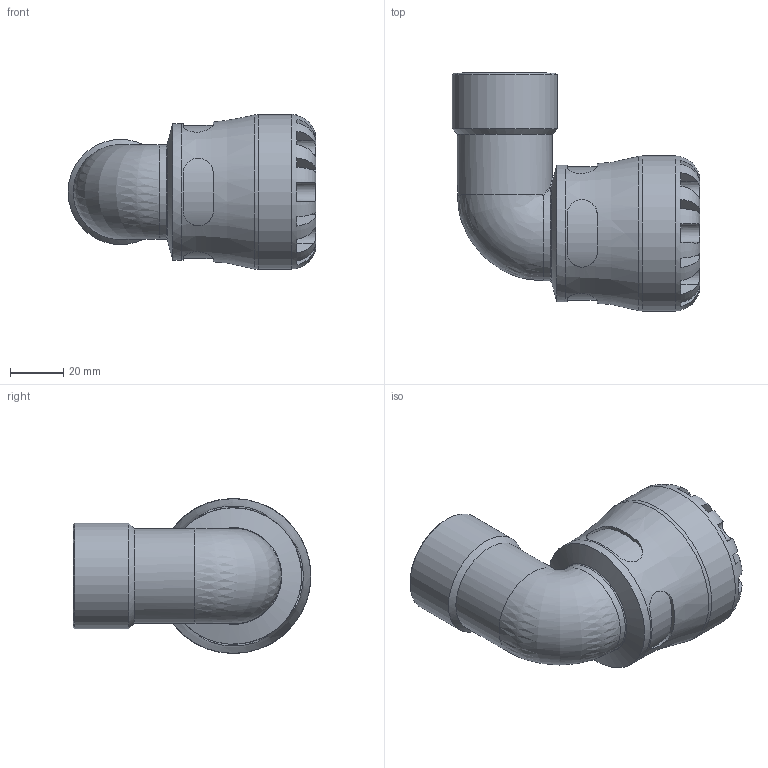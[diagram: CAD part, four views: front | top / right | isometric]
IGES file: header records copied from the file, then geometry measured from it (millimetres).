
Global section: file name: 107600032010_197600032010.ipt; native system: Autodesk Inventor 2015; preprocessor: unknown; author: KIM; date: 20170518.120352; units: millimetre
Bounding box: 92.69 x 89 x 58 mm (x, y, z)
Volume: 111087.9 mm3; surface area: 34072.6 mm2
Topology: 1 solids, 1 shells, 113 faces, 290 edges, 184 vertices
Faces by surface type: plane 60, revolution 28, cylinder 17, bspline 5, cone 3
Full cylindrical faces by diameter (mm): 35.44 x1, 39.378 x1, 51.04 x1, 58 x1
